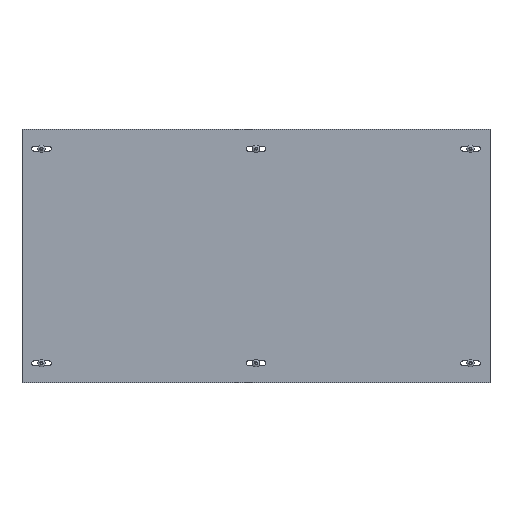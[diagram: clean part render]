
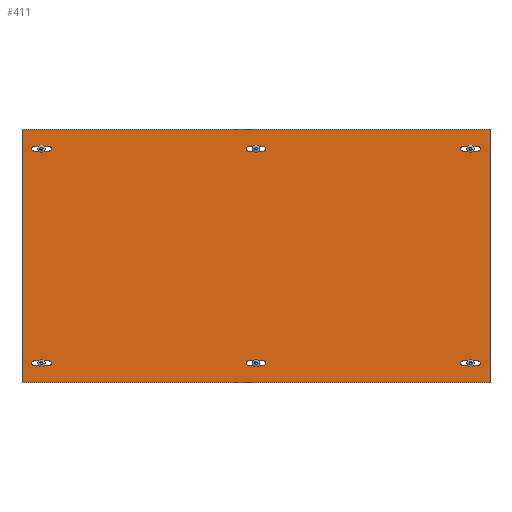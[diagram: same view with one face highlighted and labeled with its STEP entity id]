
A CAD part, top view. The second image highlights one B-rep face of the part: STEP entity #411.
In plain terms, the highlighted planar face has unit normal (0, 0, 1).
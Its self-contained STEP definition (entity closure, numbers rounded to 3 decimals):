
#63 = EDGE_CURVE('',#64,#66,#68,.T.);
#64 = VERTEX_POINT('',#65);
#65 = CARTESIAN_POINT('',(-300.,162.5,0.));
#66 = VERTEX_POINT('',#67);
#67 = CARTESIAN_POINT('',(-300.,-162.5,0.));
#68 = LINE('',#69,#70);
#69 = CARTESIAN_POINT('',(-300.,-162.5,0.));
#70 = VECTOR('',#71,1.);
#71 = DIRECTION('',(-0.,-1.,-0.));
#103 = EDGE_CURVE('',#104,#64,#106,.T.);
#104 = VERTEX_POINT('',#105);
#105 = CARTESIAN_POINT('',(300.,162.5,0.));
#106 = LINE('',#107,#108);
#107 = CARTESIAN_POINT('',(300.,162.5,0.));
#108 = VECTOR('',#109,1.);
#109 = DIRECTION('',(-1.,0.,0.));
#134 = EDGE_CURVE('',#135,#104,#137,.T.);
#135 = VERTEX_POINT('',#136);
#136 = CARTESIAN_POINT('',(300.,-162.5,0.));
#137 = LINE('',#138,#139);
#138 = CARTESIAN_POINT('',(300.,-162.5,0.));
#139 = VECTOR('',#140,1.);
#140 = DIRECTION('',(0.,1.,0.));
#165 = EDGE_CURVE('',#66,#135,#166,.T.);
#166 = LINE('',#167,#168);
#167 = CARTESIAN_POINT('',(300.,-162.5,0.));
#168 = VECTOR('',#169,1.);
#169 = DIRECTION('',(1.,0.,-0.));
#411 = ADVANCED_FACE('',(#412,#448,#484,#520,#556,#592,#628),#634,.T.);
#412 = FACE_BOUND('',#413,.T.);
#413 = EDGE_LOOP('',(#414,#425,#433,#442));
#414 = ORIENTED_EDGE('',*,*,#415,.F.);
#415 = EDGE_CURVE('',#416,#418,#420,.T.);
#416 = VERTEX_POINT('',#417);
#417 = CARTESIAN_POINT('',(-9.25,140.75,0.));
#418 = VERTEX_POINT('',#419);
#419 = CARTESIAN_POINT('',(-9.25,134.25,0.));
#420 = CIRCLE('',#421,3.25);
#421 = AXIS2_PLACEMENT_3D('',#422,#423,#424);
#422 = CARTESIAN_POINT('',(-9.25,137.5,0.));
#423 = DIRECTION('',(0.,0.,1.));
#424 = DIRECTION('',(1.,0.,-0.));
#425 = ORIENTED_EDGE('',*,*,#426,.F.);
#426 = EDGE_CURVE('',#427,#416,#429,.T.);
#427 = VERTEX_POINT('',#428);
#428 = CARTESIAN_POINT('',(9.25,140.75,0.));
#429 = LINE('',#430,#431);
#430 = CARTESIAN_POINT('',(-9.25,140.75,0.));
#431 = VECTOR('',#432,1.);
#432 = DIRECTION('',(-1.,-0.,-0.));
#433 = ORIENTED_EDGE('',*,*,#434,.F.);
#434 = EDGE_CURVE('',#435,#427,#437,.T.);
#435 = VERTEX_POINT('',#436);
#436 = CARTESIAN_POINT('',(9.25,134.25,0.));
#437 = CIRCLE('',#438,3.25);
#438 = AXIS2_PLACEMENT_3D('',#439,#440,#441);
#439 = CARTESIAN_POINT('',(9.25,137.5,0.));
#440 = DIRECTION('',(0.,0.,1.));
#441 = DIRECTION('',(1.,0.,-0.));
#442 = ORIENTED_EDGE('',*,*,#443,.F.);
#443 = EDGE_CURVE('',#418,#435,#444,.T.);
#444 = LINE('',#445,#446);
#445 = CARTESIAN_POINT('',(-9.25,134.25,0.));
#446 = VECTOR('',#447,1.);
#447 = DIRECTION('',(1.,0.,0.));
#448 = FACE_BOUND('',#449,.T.);
#449 = EDGE_LOOP('',(#450,#461,#469,#478));
#450 = ORIENTED_EDGE('',*,*,#451,.F.);
#451 = EDGE_CURVE('',#452,#454,#456,.T.);
#452 = VERTEX_POINT('',#453);
#453 = CARTESIAN_POINT('',(-9.25,-134.25,0.));
#454 = VERTEX_POINT('',#455);
#455 = CARTESIAN_POINT('',(-9.25,-140.75,0.));
#456 = CIRCLE('',#457,3.25);
#457 = AXIS2_PLACEMENT_3D('',#458,#459,#460);
#458 = CARTESIAN_POINT('',(-9.25,-137.5,0.));
#459 = DIRECTION('',(0.,0.,1.));
#460 = DIRECTION('',(-1.,0.,0.));
#461 = ORIENTED_EDGE('',*,*,#462,.F.);
#462 = EDGE_CURVE('',#463,#452,#465,.T.);
#463 = VERTEX_POINT('',#464);
#464 = CARTESIAN_POINT('',(9.25,-134.25,0.));
#465 = LINE('',#466,#467);
#466 = CARTESIAN_POINT('',(-9.25,-134.25,0.));
#467 = VECTOR('',#468,1.);
#468 = DIRECTION('',(-1.,-0.,-0.));
#469 = ORIENTED_EDGE('',*,*,#470,.F.);
#470 = EDGE_CURVE('',#471,#463,#473,.T.);
#471 = VERTEX_POINT('',#472);
#472 = CARTESIAN_POINT('',(9.25,-140.75,0.));
#473 = CIRCLE('',#474,3.25);
#474 = AXIS2_PLACEMENT_3D('',#475,#476,#477);
#475 = CARTESIAN_POINT('',(9.25,-137.5,0.));
#476 = DIRECTION('',(0.,0.,1.));
#477 = DIRECTION('',(-1.,0.,0.));
#478 = ORIENTED_EDGE('',*,*,#479,.F.);
#479 = EDGE_CURVE('',#454,#471,#480,.T.);
#480 = LINE('',#481,#482);
#481 = CARTESIAN_POINT('',(-9.25,-140.75,0.));
#482 = VECTOR('',#483,1.);
#483 = DIRECTION('',(1.,0.,0.));
#484 = FACE_BOUND('',#485,.T.);
#485 = EDGE_LOOP('',(#486,#497,#505,#514));
#486 = ORIENTED_EDGE('',*,*,#487,.F.);
#487 = EDGE_CURVE('',#488,#490,#492,.T.);
#488 = VERTEX_POINT('',#489);
#489 = CARTESIAN_POINT('',(-265.75,-140.75,0.));
#490 = VERTEX_POINT('',#491);
#491 = CARTESIAN_POINT('',(-265.75,-134.25,0.));
#492 = CIRCLE('',#493,3.25);
#493 = AXIS2_PLACEMENT_3D('',#494,#495,#496);
#494 = CARTESIAN_POINT('',(-265.75,-137.5,0.));
#495 = DIRECTION('',(0.,0.,1.));
#496 = DIRECTION('',(1.,0.,-0.));
#497 = ORIENTED_EDGE('',*,*,#498,.F.);
#498 = EDGE_CURVE('',#499,#488,#501,.T.);
#499 = VERTEX_POINT('',#500);
#500 = CARTESIAN_POINT('',(-284.25,-140.75,0.));
#501 = LINE('',#502,#503);
#502 = CARTESIAN_POINT('',(-265.75,-140.75,0.));
#503 = VECTOR('',#504,1.);
#504 = DIRECTION('',(1.,-0.,-0.));
#505 = ORIENTED_EDGE('',*,*,#506,.F.);
#506 = EDGE_CURVE('',#507,#499,#509,.T.);
#507 = VERTEX_POINT('',#508);
#508 = CARTESIAN_POINT('',(-284.25,-134.25,0.));
#509 = CIRCLE('',#510,3.25);
#510 = AXIS2_PLACEMENT_3D('',#511,#512,#513);
#511 = CARTESIAN_POINT('',(-284.25,-137.5,0.));
#512 = DIRECTION('',(0.,0.,1.));
#513 = DIRECTION('',(1.,0.,-0.));
#514 = ORIENTED_EDGE('',*,*,#515,.F.);
#515 = EDGE_CURVE('',#490,#507,#516,.T.);
#516 = LINE('',#517,#518);
#517 = CARTESIAN_POINT('',(-265.75,-134.25,0.));
#518 = VECTOR('',#519,1.);
#519 = DIRECTION('',(-1.,0.,0.));
#520 = FACE_BOUND('',#521,.T.);
#521 = EDGE_LOOP('',(#522,#533,#541,#550));
#522 = ORIENTED_EDGE('',*,*,#523,.F.);
#523 = EDGE_CURVE('',#524,#526,#528,.T.);
#524 = VERTEX_POINT('',#525);
#525 = CARTESIAN_POINT('',(-265.75,134.25,0.));
#526 = VERTEX_POINT('',#527);
#527 = CARTESIAN_POINT('',(-265.75,140.75,0.));
#528 = CIRCLE('',#529,3.25);
#529 = AXIS2_PLACEMENT_3D('',#530,#531,#532);
#530 = CARTESIAN_POINT('',(-265.75,137.5,0.));
#531 = DIRECTION('',(0.,0.,1.));
#532 = DIRECTION('',(-1.,0.,0.));
#533 = ORIENTED_EDGE('',*,*,#534,.F.);
#534 = EDGE_CURVE('',#535,#524,#537,.T.);
#535 = VERTEX_POINT('',#536);
#536 = CARTESIAN_POINT('',(-284.25,134.25,0.));
#537 = LINE('',#538,#539);
#538 = CARTESIAN_POINT('',(-265.75,134.25,0.));
#539 = VECTOR('',#540,1.);
#540 = DIRECTION('',(1.,-0.,-0.));
#541 = ORIENTED_EDGE('',*,*,#542,.F.);
#542 = EDGE_CURVE('',#543,#535,#545,.T.);
#543 = VERTEX_POINT('',#544);
#544 = CARTESIAN_POINT('',(-284.25,140.75,0.));
#545 = CIRCLE('',#546,3.25);
#546 = AXIS2_PLACEMENT_3D('',#547,#548,#549);
#547 = CARTESIAN_POINT('',(-284.25,137.5,0.));
#548 = DIRECTION('',(0.,0.,1.));
#549 = DIRECTION('',(-1.,0.,0.));
#550 = ORIENTED_EDGE('',*,*,#551,.F.);
#551 = EDGE_CURVE('',#526,#543,#552,.T.);
#552 = LINE('',#553,#554);
#553 = CARTESIAN_POINT('',(-265.75,140.75,0.));
#554 = VECTOR('',#555,1.);
#555 = DIRECTION('',(-1.,0.,0.));
#556 = FACE_BOUND('',#557,.T.);
#557 = EDGE_LOOP('',(#558,#569,#577,#586));
#558 = ORIENTED_EDGE('',*,*,#559,.F.);
#559 = EDGE_CURVE('',#560,#562,#564,.T.);
#560 = VERTEX_POINT('',#561);
#561 = CARTESIAN_POINT('',(265.75,140.75,0.));
#562 = VERTEX_POINT('',#563);
#563 = CARTESIAN_POINT('',(265.75,134.25,0.));
#564 = CIRCLE('',#565,3.25);
#565 = AXIS2_PLACEMENT_3D('',#566,#567,#568);
#566 = CARTESIAN_POINT('',(265.75,137.5,0.));
#567 = DIRECTION('',(0.,0.,1.));
#568 = DIRECTION('',(1.,0.,-0.));
#569 = ORIENTED_EDGE('',*,*,#570,.F.);
#570 = EDGE_CURVE('',#571,#560,#573,.T.);
#571 = VERTEX_POINT('',#572);
#572 = CARTESIAN_POINT('',(284.25,140.75,0.));
#573 = LINE('',#574,#575);
#574 = CARTESIAN_POINT('',(265.75,140.75,0.));
#575 = VECTOR('',#576,1.);
#576 = DIRECTION('',(-1.,-0.,-0.));
#577 = ORIENTED_EDGE('',*,*,#578,.F.);
#578 = EDGE_CURVE('',#579,#571,#581,.T.);
#579 = VERTEX_POINT('',#580);
#580 = CARTESIAN_POINT('',(284.25,134.25,0.));
#581 = CIRCLE('',#582,3.25);
#582 = AXIS2_PLACEMENT_3D('',#583,#584,#585);
#583 = CARTESIAN_POINT('',(284.25,137.5,0.));
#584 = DIRECTION('',(0.,0.,1.));
#585 = DIRECTION('',(1.,0.,-0.));
#586 = ORIENTED_EDGE('',*,*,#587,.F.);
#587 = EDGE_CURVE('',#562,#579,#588,.T.);
#588 = LINE('',#589,#590);
#589 = CARTESIAN_POINT('',(265.75,134.25,0.));
#590 = VECTOR('',#591,1.);
#591 = DIRECTION('',(1.,0.,0.));
#592 = FACE_BOUND('',#593,.T.);
#593 = EDGE_LOOP('',(#594,#605,#613,#622));
#594 = ORIENTED_EDGE('',*,*,#595,.F.);
#595 = EDGE_CURVE('',#596,#598,#600,.T.);
#596 = VERTEX_POINT('',#597);
#597 = CARTESIAN_POINT('',(265.75,-134.25,0.));
#598 = VERTEX_POINT('',#599);
#599 = CARTESIAN_POINT('',(265.75,-140.75,0.));
#600 = CIRCLE('',#601,3.25);
#601 = AXIS2_PLACEMENT_3D('',#602,#603,#604);
#602 = CARTESIAN_POINT('',(265.75,-137.5,0.));
#603 = DIRECTION('',(0.,0.,1.));
#604 = DIRECTION('',(-1.,0.,0.));
#605 = ORIENTED_EDGE('',*,*,#606,.F.);
#606 = EDGE_CURVE('',#607,#596,#609,.T.);
#607 = VERTEX_POINT('',#608);
#608 = CARTESIAN_POINT('',(284.25,-134.25,0.));
#609 = LINE('',#610,#611);
#610 = CARTESIAN_POINT('',(265.75,-134.25,0.));
#611 = VECTOR('',#612,1.);
#612 = DIRECTION('',(-1.,-0.,-0.));
#613 = ORIENTED_EDGE('',*,*,#614,.F.);
#614 = EDGE_CURVE('',#615,#607,#617,.T.);
#615 = VERTEX_POINT('',#616);
#616 = CARTESIAN_POINT('',(284.25,-140.75,0.));
#617 = CIRCLE('',#618,3.25);
#618 = AXIS2_PLACEMENT_3D('',#619,#620,#621);
#619 = CARTESIAN_POINT('',(284.25,-137.5,0.));
#620 = DIRECTION('',(0.,0.,1.));
#621 = DIRECTION('',(-1.,0.,0.));
#622 = ORIENTED_EDGE('',*,*,#623,.F.);
#623 = EDGE_CURVE('',#598,#615,#624,.T.);
#624 = LINE('',#625,#626);
#625 = CARTESIAN_POINT('',(265.75,-140.75,0.));
#626 = VECTOR('',#627,1.);
#627 = DIRECTION('',(1.,0.,0.));
#628 = FACE_BOUND('',#629,.T.);
#629 = EDGE_LOOP('',(#630,#631,#632,#633));
#630 = ORIENTED_EDGE('',*,*,#63,.T.);
#631 = ORIENTED_EDGE('',*,*,#165,.T.);
#632 = ORIENTED_EDGE('',*,*,#134,.T.);
#633 = ORIENTED_EDGE('',*,*,#103,.T.);
#634 = PLANE('',#635);
#635 = AXIS2_PLACEMENT_3D('',#636,#637,#638);
#636 = CARTESIAN_POINT('',(0.,0.,0.));
#637 = DIRECTION('',(0.,-0.,1.));
#638 = DIRECTION('',(1.,0.,0.));
